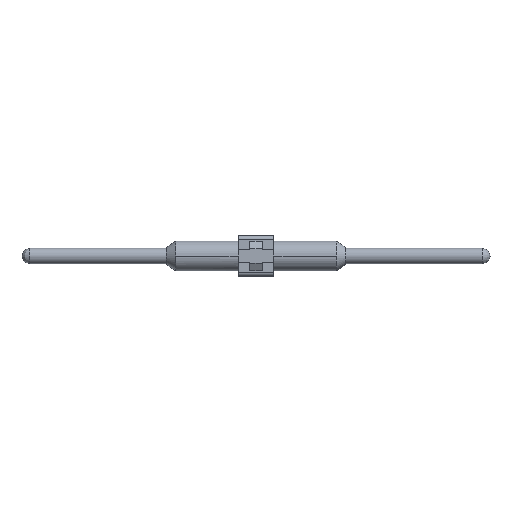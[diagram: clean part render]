
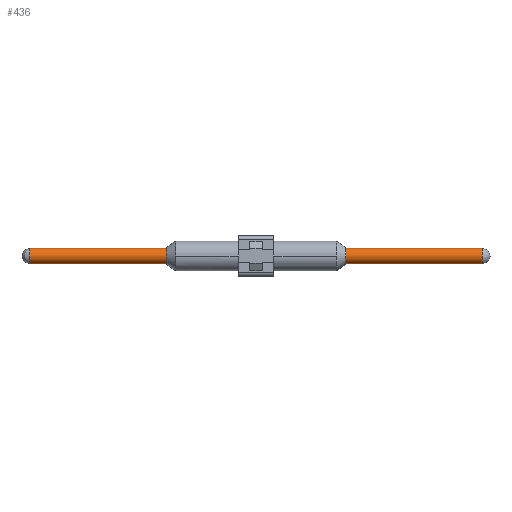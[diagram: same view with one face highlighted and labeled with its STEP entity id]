
A CAD part, left-side view. The second image highlights one B-rep face of the part: STEP entity #436.
In plain terms, the highlighted cylindrical face has radius 0.5 mm (diameter 1 mm), a partial arc.
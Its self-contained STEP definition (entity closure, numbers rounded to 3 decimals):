
#251=CARTESIAN_POINT(' ',(0.,-15.,0.));
#256=DIRECTION(' ',(0.,1.,0.));
#261=DIRECTION(' ',(0.,0.,-1.));
#266=AXIS2_PLACEMENT_3D(' ',#251,#256,#261);
#271=CYLINDRICAL_SURFACE(' ',#266,0.5);
#276=CARTESIAN_POINT(' ',(0.,14.5,-0.5));
#281=DIRECTION(' ',(0.,-1.,0.));
#286=VECTOR(' ',#281,1.);
#291=LINE('',#276,#286);
#296=CARTESIAN_POINT(' ',(0.,14.5,-0.5));
#297=VERTEX_POINT(' ',#296);
#301=CARTESIAN_POINT(' ',(0.,-14.5,-0.5));
#302=VERTEX_POINT(' ',#301);
#306=EDGE_CURVE(' ',#297,#302,#291,.T.);
#311=ORIENTED_EDGE(' ',*,*,#306,.T.);
#316=CARTESIAN_POINT(' ',(0.,-14.5,0.));
#321=DIRECTION(' ',(-0.,1.,0.));
#326=DIRECTION(' ',(-0.001,0.,-1.));
#331=AXIS2_PLACEMENT_3D(' ',#316,#321,#326);
#336=CIRCLE('',#331,0.5);
#341=CARTESIAN_POINT(' ',(0.,-14.5,0.5));
#342=VERTEX_POINT(' ',#341);
#346=EDGE_CURVE(' ',#302,#342,#336,.T.);
#351=ORIENTED_EDGE(' ',*,*,#346,.T.);
#356=CARTESIAN_POINT(' ',(0.,14.5,0.5));
#361=DIRECTION(' ',(0.,-1.,0.));
#366=VECTOR(' ',#361,1.);
#371=LINE('',#356,#366);
#376=CARTESIAN_POINT(' ',(0.,14.5,0.5));
#377=VERTEX_POINT(' ',#376);
#381=EDGE_CURVE(' ',#377,#342,#371,.T.);
#386=ORIENTED_EDGE(' ',*,*,#381,.F.);
#391=CARTESIAN_POINT(' ',(0.,14.5,0.));
#396=DIRECTION(' ',(-0.,1.,0.));
#401=DIRECTION(' ',(-0.001,0.,-1.));
#406=AXIS2_PLACEMENT_3D(' ',#391,#396,#401);
#411=CIRCLE('',#406,0.5);
#416=EDGE_CURVE(' ',#297,#377,#411,.T.);
#421=ORIENTED_EDGE(' ',*,*,#416,.F.);
#426=EDGE_LOOP(' ',(#311,#351,#386,#421));
#431=FACE_OUTER_BOUND(' ',#426,.T.);
#436=ADVANCED_FACE('',(#431),#271,.T.);
